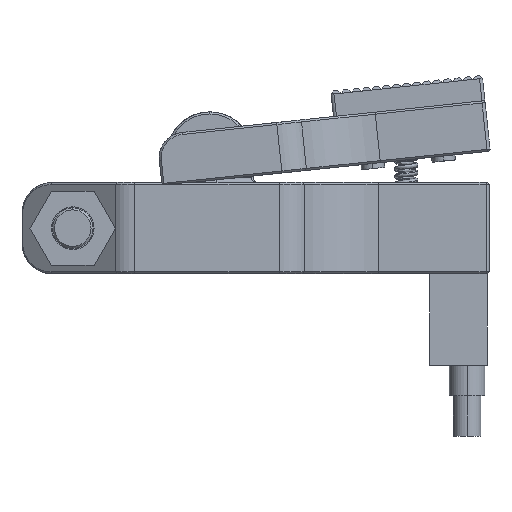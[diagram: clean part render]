
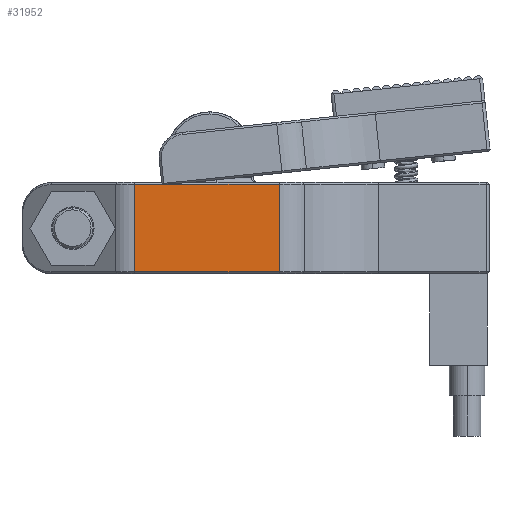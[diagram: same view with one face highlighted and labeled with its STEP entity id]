
A CAD part, front view. The second image highlights one B-rep face of the part: STEP entity #31952.
In plain terms, the highlighted planar face has unit normal (0, -1, 0).
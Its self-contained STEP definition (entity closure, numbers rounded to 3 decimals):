
#433 = DIRECTION ( 'NONE',  ( 1., 0., 0. ) ) ;
#615 = EDGE_CURVE ( 'NONE', #30186, #42280, #2125, .T. ) ;
#1109 = EDGE_CURVE ( 'NONE', #41641, #65320, #24040, .T. ) ;
#1653 = DIRECTION ( 'NONE',  ( 0., 0., 1. ) ) ;
#2125 = LINE ( 'NONE', #50429, #44118 ) ;
#8204 = AXIS2_PLACEMENT_3D ( 'NONE', #65781, #33854, #33632 ) ;
#9317 = VECTOR ( 'NONE', #433, 1000. ) ;
#9760 = VECTOR ( 'NONE', #27566, 1000. ) ;
#17835 = ORIENTED_EDGE ( 'NONE', *, *, #40282, .T. ) ;
#20834 = CARTESIAN_POINT ( 'NONE',  ( 6.843, -15., -8.8 ) ) ;
#24040 = LINE ( 'NONE', #53841, #9760 ) ;
#27566 = DIRECTION ( 'NONE',  ( 0., 0., 1. ) ) ;
#30186 = VERTEX_POINT ( 'NONE', #56982 ) ;
#31952 = ADVANCED_FACE ( 'NONE', ( #36061 ), #60347, .F. ) ;
#33632 = DIRECTION ( 'NONE',  ( -1., 0., 0. ) ) ;
#33854 = DIRECTION ( 'NONE',  ( 0., 1., 0. ) ) ;
#34639 = CARTESIAN_POINT ( 'NONE',  ( 6.843, -15., -0.2 ) ) ;
#34926 = VECTOR ( 'NONE', #68255, 1000. ) ;
#36061 = FACE_OUTER_BOUND ( 'NONE', #67663, .T. ) ;
#37576 = ORIENTED_EDGE ( 'NONE', *, *, #1109, .T. ) ;
#40282 = EDGE_CURVE ( 'NONE', #65320, #42280, #66858, .T. ) ;
#41641 = VERTEX_POINT ( 'NONE', #20834 ) ;
#42280 = VERTEX_POINT ( 'NONE', #52829 ) ;
#44118 = VECTOR ( 'NONE', #1653, 1000. ) ;
#45339 = ORIENTED_EDGE ( 'NONE', *, *, #615, .F. ) ;
#49210 = CARTESIAN_POINT ( 'NONE',  ( 6.843, -15., -8.8 ) ) ;
#50429 = CARTESIAN_POINT ( 'NONE',  ( -7.434, -15., -9. ) ) ;
#52829 = CARTESIAN_POINT ( 'NONE',  ( -7.434, -15., -0.2 ) ) ;
#53841 = CARTESIAN_POINT ( 'NONE',  ( 6.843, -15., -9. ) ) ;
#56982 = CARTESIAN_POINT ( 'NONE',  ( -7.434, -15., -8.8 ) ) ;
#60347 = PLANE ( 'NONE',  #8204 ) ;
#60713 = CARTESIAN_POINT ( 'NONE',  ( 6.843, -15., -0.2 ) ) ;
#62065 = EDGE_CURVE ( 'NONE', #30186, #41641, #65528, .T. ) ;
#65320 = VERTEX_POINT ( 'NONE', #34639 ) ;
#65528 = LINE ( 'NONE', #49210, #9317 ) ;
#65726 = ORIENTED_EDGE ( 'NONE', *, *, #62065, .T. ) ;
#65781 = CARTESIAN_POINT ( 'NONE',  ( 6.843, -15., -9. ) ) ;
#66858 = LINE ( 'NONE', #60713, #34926 ) ;
#67663 = EDGE_LOOP ( 'NONE', ( #37576, #17835, #45339, #65726 ) ) ;
#68255 = DIRECTION ( 'NONE',  ( -1., 0., 0. ) ) ;
